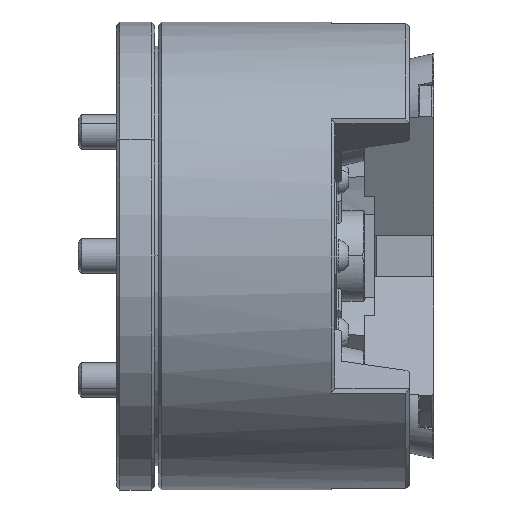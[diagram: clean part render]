
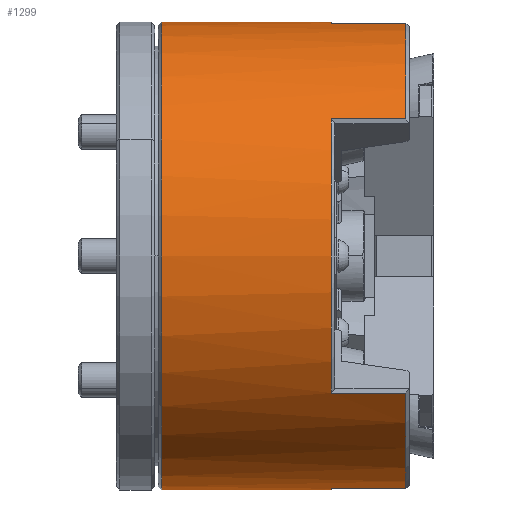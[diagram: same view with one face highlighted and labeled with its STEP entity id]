
A CAD part, front view. The second image highlights one B-rep face of the part: STEP entity #1299.
In plain terms, the highlighted cylindrical face has radius 67.5 mm (diameter 135 mm), a partial arc.
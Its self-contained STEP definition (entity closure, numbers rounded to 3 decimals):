
#98 = AXIS2_PLACEMENT_3D ( 'NONE', #15316, #9584, #17626 ) ;
#113 = CIRCLE ( 'NONE', #20291, 67.5 ) ;
#212 = VECTOR ( 'NONE', #22423, 1000. ) ;
#947 = VERTEX_POINT ( 'NONE', #25170 ) ;
#990 = FACE_OUTER_BOUND ( 'NONE', #30813, .T. ) ;
#992 = ORIENTED_EDGE ( 'NONE', *, *, #27655, .T. ) ;
#1047 = VERTEX_POINT ( 'NONE', #2924 ) ;
#1189 = DIRECTION ( 'NONE',  ( 0., 0., 1. ) ) ;
#1299 = ADVANCED_FACE ( 'NONE', ( #990 ), #35910, .T. ) ;
#1861 = VERTEX_POINT ( 'NONE', #9429 ) ;
#2471 = CARTESIAN_POINT ( 'NONE',  ( 63.843, -6.871, -67.149 ) ) ;
#2653 = DIRECTION ( 'NONE',  ( -1., 0., 0. ) ) ;
#2655 = VECTOR ( 'NONE', #16338, 1000. ) ;
#2924 = CARTESIAN_POINT ( 'NONE',  ( 21., -54.717, 39.525 ) ) ;
#2991 = DIRECTION ( 'NONE',  ( 0., 0., 1. ) ) ;
#3656 = DIRECTION ( 'NONE',  ( 1., 0., 0. ) ) ;
#3931 = CARTESIAN_POINT ( 'NONE',  ( 63.843, 0., -67.5 ) ) ;
#4045 = DIRECTION ( 'NONE',  ( 0., 0., -1. ) ) ;
#4333 = ORIENTED_EDGE ( 'NONE', *, *, #28562, .T. ) ;
#4601 = DIRECTION ( 'NONE',  ( 0., 0., -1. ) ) ;
#4816 = DIRECTION ( 'NONE',  ( 1., 0., 0. ) ) ;
#5128 = CARTESIAN_POINT ( 'NONE',  ( 63.843, 0., -67.5 ) ) ;
#5211 = DIRECTION ( 'NONE',  ( 0., 0., -1. ) ) ;
#5293 = EDGE_CURVE ( 'NONE', #24500, #1047, #113, .T. ) ;
#6012 = VERTEX_POINT ( 'NONE', #37365 ) ;
#6636 = ORIENTED_EDGE ( 'NONE', *, *, #34718, .T. ) ;
#6673 = CARTESIAN_POINT ( 'NONE',  ( -28.85, -0.487, -67.5 ) ) ;
#6908 = CARTESIAN_POINT ( 'NONE',  ( 21., -6.871, 67.149 ) ) ;
#7325 = VERTEX_POINT ( 'NONE', #35028 ) ;
#7371 = AXIS2_PLACEMENT_3D ( 'NONE', #27056, #3656, #4045 ) ;
#7628 = CARTESIAN_POINT ( 'NONE',  ( -21.161, -0.455, -67.499 ) ) ;
#8574 = DIRECTION ( 'NONE',  ( 1., 0., 0. ) ) ;
#8726 = AXIS2_PLACEMENT_3D ( 'NONE', #28005, #19344, #4601 ) ;
#8812 = CARTESIAN_POINT ( 'NONE',  ( -26.988, -1.243, -67.489 ) ) ;
#8898 = ORIENTED_EDGE ( 'NONE', *, *, #11861, .T. ) ;
#8996 = CARTESIAN_POINT ( 'NONE',  ( -25.405, -1.5, -67.483 ) ) ;
#9429 = CARTESIAN_POINT ( 'NONE',  ( -0.478, -6.871, -67.149 ) ) ;
#9584 = DIRECTION ( 'NONE',  ( 1., 0., 0. ) ) ;
#10388 = VERTEX_POINT ( 'NONE', #19624 ) ;
#10539 = AXIS2_PLACEMENT_3D ( 'NONE', #23698, #26203, #2991 ) ;
#10703 = ORIENTED_EDGE ( 'NONE', *, *, #21695, .T. ) ;
#10885 = VERTEX_POINT ( 'NONE', #18808 ) ;
#11418 = VERTEX_POINT ( 'NONE', #37465 ) ;
#11861 = EDGE_CURVE ( 'NONE', #24500, #25144, #17174, .T. ) ;
#12918 = ORIENTED_EDGE ( 'NONE', *, *, #5293, .F. ) ;
#12987 = CARTESIAN_POINT ( 'NONE',  ( -22.247, -0.979, -67.493 ) ) ;
#13038 = VECTOR ( 'NONE', #8574, 1000. ) ;
#13042 = ORIENTED_EDGE ( 'NONE', *, *, #33042, .F. ) ;
#13086 = LINE ( 'NONE', #21527, #2655 ) ;
#13830 = VERTEX_POINT ( 'NONE', #15063 ) ;
#13846 = CARTESIAN_POINT ( 'NONE',  ( 21., 0., 0. ) ) ;
#14083 = ORIENTED_EDGE ( 'NONE', *, *, #34949, .T. ) ;
#14694 = LINE ( 'NONE', #17754, #13038 ) ;
#15063 = CARTESIAN_POINT ( 'NONE',  ( -0.478, -54.717, 39.525 ) ) ;
#15316 = CARTESIAN_POINT ( 'NONE',  ( -49.5, 0., 0. ) ) ;
#16105 = B_SPLINE_CURVE_WITH_KNOTS ( 'NONE', 3,
 ( #32971, #6673, #35290, #8812, #23589, #20686, #8996, #33921, #31038, #30291, #27215, #18914, #12987, #36434, #22013, #7628, #30647, #24705 ),
 .UNSPECIFIED., .F., .F.,
 ( 4, 2, 2, 2, 2, 2, 2, 2, 4 ),
 ( 0., 0.002, 0.004, 0.005, 0.006, 0.007, 0.008, 0.008, 0.01 ),
 .UNSPECIFIED. ) ;
#16116 = ORIENTED_EDGE ( 'NONE', *, *, #33470, .T. ) ;
#16338 = DIRECTION ( 'NONE',  ( 1., 0., 0. ) ) ;
#16632 = VERTEX_POINT ( 'NONE', #28110 ) ;
#16986 = CARTESIAN_POINT ( 'NONE',  ( 63.843, -6.871, 67.149 ) ) ;
#17174 = LINE ( 'NONE', #16986, #37853 ) ;
#17293 = CIRCLE ( 'NONE', #8726, 67.5 ) ;
#17626 = DIRECTION ( 'NONE',  ( 0., 0., -1. ) ) ;
#17754 = CARTESIAN_POINT ( 'NONE',  ( 63.843, 0., 67.5 ) ) ;
#18104 = LINE ( 'NONE', #3931, #29991 ) ;
#18531 = AXIS2_PLACEMENT_3D ( 'NONE', #22734, #31571, #25794 ) ;
#18808 = CARTESIAN_POINT ( 'NONE',  ( 21., -6.871, -67.149 ) ) ;
#18914 = CARTESIAN_POINT ( 'NONE',  ( -22.437, -1.051, -67.492 ) ) ;
#19317 = LINE ( 'NONE', #2471, #212 ) ;
#19344 = DIRECTION ( 'NONE',  ( 1., 0., 0. ) ) ;
#19624 = CARTESIAN_POINT ( 'NONE',  ( 21., -54.717, -39.525 ) ) ;
#20291 = AXIS2_PLACEMENT_3D ( 'NONE', #13846, #4816, #5211 ) ;
#20686 = CARTESIAN_POINT ( 'NONE',  ( -25.804, -1.467, -67.484 ) ) ;
#21252 = CARTESIAN_POINT ( 'NONE',  ( -0.478, 0., 67.5 ) ) ;
#21527 = CARTESIAN_POINT ( 'NONE',  ( 63.843, -54.717, 39.525 ) ) ;
#21695 = EDGE_CURVE ( 'NONE', #6012, #13830, #27713, .T. ) ;
#22013 = CARTESIAN_POINT ( 'NONE',  ( -21.693, -0.735, -67.496 ) ) ;
#22423 = DIRECTION ( 'NONE',  ( 1., 0., 0. ) ) ;
#22734 = CARTESIAN_POINT ( 'NONE',  ( -0.478, 0., 0. ) ) ;
#22799 = CARTESIAN_POINT ( 'NONE',  ( -0.478, -6.871, 67.149 ) ) ;
#23589 = CARTESIAN_POINT ( 'NONE',  ( -26.595, -1.339, -67.487 ) ) ;
#23692 = CARTESIAN_POINT ( 'NONE',  ( -49.5, 0., 67.5 ) ) ;
#23698 = CARTESIAN_POINT ( 'NONE',  ( -0.478, 0., 0. ) ) ;
#24500 = VERTEX_POINT ( 'NONE', #6908 ) ;
#24565 = CARTESIAN_POINT ( 'NONE',  ( 63.843, -54.717, -39.525 ) ) ;
#24705 = CARTESIAN_POINT ( 'NONE',  ( -20.5, 0., -67.5 ) ) ;
#24771 = EDGE_CURVE ( 'NONE', #11418, #947, #16105, .T. ) ;
#25144 = VERTEX_POINT ( 'NONE', #22799 ) ;
#25170 = CARTESIAN_POINT ( 'NONE',  ( -20.5, 0., -67.5 ) ) ;
#25226 = EDGE_CURVE ( 'NONE', #947, #7325, #28549, .T. ) ;
#25794 = DIRECTION ( 'NONE',  ( 0., 0., 1. ) ) ;
#26203 = DIRECTION ( 'NONE',  ( -1., 0., 0. ) ) ;
#26291 = ORIENTED_EDGE ( 'NONE', *, *, #24771, .T. ) ;
#26318 = VECTOR ( 'NONE', #28360, 1000. ) ;
#26485 = EDGE_CURVE ( 'NONE', #10388, #6012, #30915, .T. ) ;
#27056 = CARTESIAN_POINT ( 'NONE',  ( 63.843, 0., 0. ) ) ;
#27215 = CARTESIAN_POINT ( 'NONE',  ( -23.011, -1.243, -67.489 ) ) ;
#27655 = EDGE_CURVE ( 'NONE', #37117, #16632, #33156, .T. ) ;
#27685 = CIRCLE ( 'NONE', #10539, 67.5 ) ;
#27713 = CIRCLE ( 'NONE', #31393, 67.5 ) ;
#28005 = CARTESIAN_POINT ( 'NONE',  ( 21., 0., 0. ) ) ;
#28110 = CARTESIAN_POINT ( 'NONE',  ( -49.5, 0., -67.5 ) ) ;
#28360 = DIRECTION ( 'NONE',  ( 1., 0., 0. ) ) ;
#28549 = LINE ( 'NONE', #5128, #26318 ) ;
#28562 = EDGE_CURVE ( 'NONE', #7325, #1861, #27685, .T. ) ;
#28867 = ORIENTED_EDGE ( 'NONE', *, *, #25226, .T. ) ;
#29886 = ORIENTED_EDGE ( 'NONE', *, *, #34238, .F. ) ;
#29991 = VECTOR ( 'NONE', #36157, 1000. ) ;
#30291 = CARTESIAN_POINT ( 'NONE',  ( -23.4, -1.338, -67.487 ) ) ;
#30347 = DIRECTION ( 'NONE',  ( -1., 0., 0. ) ) ;
#30647 = CARTESIAN_POINT ( 'NONE',  ( -20.822, -0.242, -67.5 ) ) ;
#30813 = EDGE_LOOP ( 'NONE', ( #13042, #992, #16116, #26291, #28867, #4333, #36558, #29886, #36429, #10703, #14083, #12918, #8898, #6636 ) ) ;
#30915 = LINE ( 'NONE', #24565, #35582 ) ;
#31038 = CARTESIAN_POINT ( 'NONE',  ( -24.191, -1.467, -67.484 ) ) ;
#31393 = AXIS2_PLACEMENT_3D ( 'NONE', #36497, #30347, #1189 ) ;
#31571 = DIRECTION ( 'NONE',  ( -1., 0., 0. ) ) ;
#32971 = CARTESIAN_POINT ( 'NONE',  ( -29.5, 0., -67.5 ) ) ;
#32998 = EDGE_CURVE ( 'NONE', #1861, #10885, #19317, .T. ) ;
#33042 = EDGE_CURVE ( 'NONE', #37117, #36453, #14694, .T. ) ;
#33156 = CIRCLE ( 'NONE', #98, 67.5 ) ;
#33235 = CIRCLE ( 'NONE', #18531, 67.5 ) ;
#33470 = EDGE_CURVE ( 'NONE', #16632, #11418, #18104, .T. ) ;
#33921 = CARTESIAN_POINT ( 'NONE',  ( -24.596, -1.5, -67.483 ) ) ;
#34238 = EDGE_CURVE ( 'NONE', #10388, #10885, #17293, .T. ) ;
#34718 = EDGE_CURVE ( 'NONE', #25144, #36453, #33235, .T. ) ;
#34949 = EDGE_CURVE ( 'NONE', #13830, #1047, #13086, .T. ) ;
#35028 = CARTESIAN_POINT ( 'NONE',  ( -0.478, 0., -67.5 ) ) ;
#35290 = CARTESIAN_POINT ( 'NONE',  ( -28.141, -0.859, -67.495 ) ) ;
#35582 = VECTOR ( 'NONE', #36300, 1000. ) ;
#35910 = CYLINDRICAL_SURFACE ( 'NONE', #7371, 67.5 ) ;
#36157 = DIRECTION ( 'NONE',  ( 1., 0., 0. ) ) ;
#36300 = DIRECTION ( 'NONE',  ( -1., 0., 0. ) ) ;
#36429 = ORIENTED_EDGE ( 'NONE', *, *, #26485, .T. ) ;
#36434 = CARTESIAN_POINT ( 'NONE',  ( -21.875, -0.821, -67.495 ) ) ;
#36453 = VERTEX_POINT ( 'NONE', #21252 ) ;
#36497 = CARTESIAN_POINT ( 'NONE',  ( -0.478, 0., 0. ) ) ;
#36558 = ORIENTED_EDGE ( 'NONE', *, *, #32998, .T. ) ;
#37117 = VERTEX_POINT ( 'NONE', #23692 ) ;
#37365 = CARTESIAN_POINT ( 'NONE',  ( -0.478, -54.717, -39.525 ) ) ;
#37465 = CARTESIAN_POINT ( 'NONE',  ( -29.5, 0., -67.5 ) ) ;
#37853 = VECTOR ( 'NONE', #2653, 1000. ) ;
